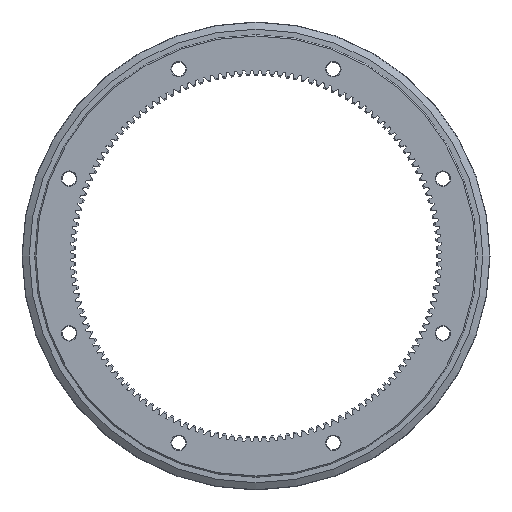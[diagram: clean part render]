
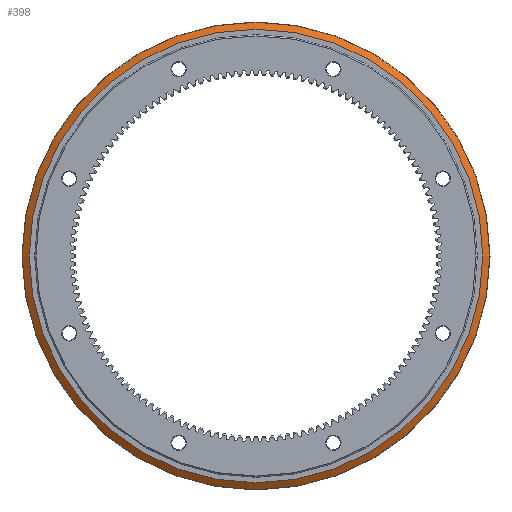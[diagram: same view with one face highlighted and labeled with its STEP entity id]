
A CAD part, front view. The second image highlights one B-rep face of the part: STEP entity #398.
In plain terms, the highlighted conical face has half-angle 55 degrees and reference radius 89.157 mm.
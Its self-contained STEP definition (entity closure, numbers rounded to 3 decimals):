
#398 = ADVANCED_FACE( '', ( #1528, #1529 ), #1530, .T. );
#1528 = FACE_OUTER_BOUND( '', #3111, .T. );
#1529 = FACE_BOUND( '', #3112, .T. );
#1530 = CONICAL_SURFACE( '', #3113, 89.157, 0.96 );
#3111 = EDGE_LOOP( '', ( #7066 ) );
#3112 = EDGE_LOOP( '', ( #7067 ) );
#3113 = AXIS2_PLACEMENT_3D( '', #7068, #7069, #7070 );
#7066 = ORIENTED_EDGE( '', *, *, #12477, .T. );
#7067 = ORIENTED_EDGE( '', *, *, #12478, .F. );
#7068 = CARTESIAN_POINT( '', ( 0., 7.75, 0. ) );
#7069 = DIRECTION( '', ( 0., 1., 0. ) );
#7070 = DIRECTION( '', ( 0., 0., 1. ) );
#12477 = EDGE_CURVE( '', #16165, #16165, #16166, .T. );
#12478 = EDGE_CURVE( '', #16167, #16167, #16168, .T. );
#16165 = VERTEX_POINT( '', #21873 );
#16166 = CIRCLE( '', #21874, 91.785 );
#16167 = VERTEX_POINT( '', #21875 );
#16168 = CIRCLE( '', #21876, 89.157 );
#21873 = CARTESIAN_POINT( '', ( 0., 9.59, -91.785 ) );
#21874 = AXIS2_PLACEMENT_3D( '', #24473, #24474, #24475 );
#21875 = CARTESIAN_POINT( '', ( 0., 7.75, -89.157 ) );
#21876 = AXIS2_PLACEMENT_3D( '', #24476, #24477, #24478 );
#24473 = CARTESIAN_POINT( '', ( 0., 9.59, 0. ) );
#24474 = DIRECTION( '', ( 0., -1., 0. ) );
#24475 = DIRECTION( '', ( 0., 0., -1. ) );
#24476 = CARTESIAN_POINT( '', ( 0., 7.75, 0. ) );
#24477 = DIRECTION( '', ( 0., -1., 0. ) );
#24478 = DIRECTION( '', ( 0., 0., -1. ) );
